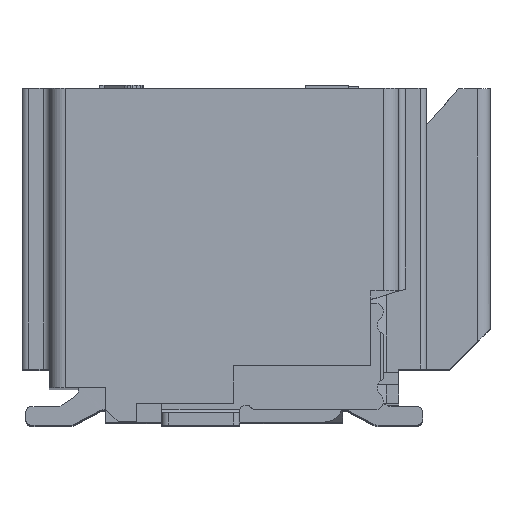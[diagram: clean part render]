
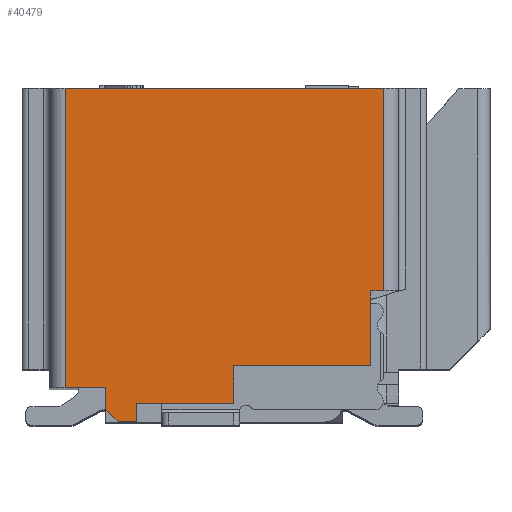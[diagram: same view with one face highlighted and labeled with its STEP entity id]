
A CAD part, top view. The second image highlights one B-rep face of the part: STEP entity #40479.
In plain terms, the highlighted planar face has unit normal (0, 0, 1).
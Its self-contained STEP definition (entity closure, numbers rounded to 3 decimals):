
#526 = VERTEX_POINT ( 'NONE', #62384 ) ;
#924 = DIRECTION ( 'NONE',  ( 0., -1., 0. ) ) ;
#1217 = ORIENTED_EDGE ( 'NONE', *, *, #10468, .T. ) ;
#2648 = DIRECTION ( 'NONE',  ( -1., 0., 0. ) ) ;
#3320 = LINE ( 'NONE', #54147, #22122 ) ;
#3886 = ORIENTED_EDGE ( 'NONE', *, *, #6984, .T. ) ;
#4043 = CARTESIAN_POINT ( 'NONE',  ( -1.9, 0.55, 8.65 ) ) ;
#4530 = LINE ( 'NONE', #16057, #59371 ) ;
#6232 = CARTESIAN_POINT ( 'NONE',  ( -1.9, 0.2, 8.65 ) ) ;
#6807 = VECTOR ( 'NONE', #8289, 1000. ) ;
#6984 = EDGE_CURVE ( 'NONE', #66555, #44958, #63815, .T. ) ;
#7229 = EDGE_CURVE ( 'NONE', #65160, #19312, #26721, .T. ) ;
#7872 = VECTOR ( 'NONE', #49823, 1000. ) ;
#8289 = DIRECTION ( 'NONE',  ( 1., 0., 0. ) ) ;
#10447 = DIRECTION ( 'NONE',  ( 0., -1., 0. ) ) ;
#10468 = EDGE_CURVE ( 'NONE', #19312, #66555, #49802, .T. ) ;
#10511 = VECTOR ( 'NONE', #2648, 1000. ) ;
#12300 = AXIS2_PLACEMENT_3D ( 'NONE', #37750, #32002, #43175 ) ;
#12562 = EDGE_CURVE ( 'NONE', #17152, #526, #62836, .T. ) ;
#13003 = VECTOR ( 'NONE', #924, 1000. ) ;
#13123 = ORIENTED_EDGE ( 'NONE', *, *, #22310, .T. ) ;
#13945 = LINE ( 'NONE', #29495, #34412 ) ;
#14085 = LINE ( 'NONE', #50316, #10511 ) ;
#15199 = CARTESIAN_POINT ( 'NONE',  ( -1.9, 0.55, 8.65 ) ) ;
#16057 = CARTESIAN_POINT ( 'NONE',  ( 0.15, 0.3, 8.65 ) ) ;
#17152 = VERTEX_POINT ( 'NONE', #61654 ) ;
#17981 = CARTESIAN_POINT ( 'NONE',  ( -1.4, 0.3, 8.65 ) ) ;
#18466 = LINE ( 'NONE', #54700, #6807 ) ;
#18583 = VERTEX_POINT ( 'NONE', #20361 ) ;
#19109 = ORIENTED_EDGE ( 'NONE', *, *, #62507, .T. ) ;
#19312 = VERTEX_POINT ( 'NONE', #34411 ) ;
#20361 = CARTESIAN_POINT ( 'NONE',  ( 0.15, 0.3, 8.65 ) ) ;
#20718 = EDGE_CURVE ( 'NONE', #46772, #44958, #18466, .T. ) ;
#21656 = CARTESIAN_POINT ( 'NONE',  ( 2.35, 0.9, 8.65 ) ) ;
#22122 = VECTOR ( 'NONE', #22640, 1000. ) ;
#22175 = VERTEX_POINT ( 'NONE', #23189 ) ;
#22310 = EDGE_CURVE ( 'NONE', #18583, #32160, #4530, .T. ) ;
#22640 = DIRECTION ( 'NONE',  ( 0., -1., 0. ) ) ;
#23050 = DIRECTION ( 'NONE',  ( 1., 0., 0. ) ) ;
#23189 = CARTESIAN_POINT ( 'NONE',  ( -1.4, 0., 8.65 ) ) ;
#24371 = DIRECTION ( 'NONE',  ( 1., 0., 0. ) ) ;
#26142 = LINE ( 'NONE', #41714, #52252 ) ;
#26662 = EDGE_CURVE ( 'NONE', #59527, #22175, #3320, .T. ) ;
#26721 = LINE ( 'NONE', #21656, #33869 ) ;
#27466 = VECTOR ( 'NONE', #10447, 1000. ) ;
#28435 = VECTOR ( 'NONE', #23050, 1000. ) ;
#28569 = CARTESIAN_POINT ( 'NONE',  ( 2.55, 5.35, 8.65 ) ) ;
#29156 = DIRECTION ( 'NONE',  ( 1., 0., 0. ) ) ;
#29495 = CARTESIAN_POINT ( 'NONE',  ( 0.15, 0.9, 8.65 ) ) ;
#31458 = EDGE_CURVE ( 'NONE', #22175, #526, #14085, .T. ) ;
#32002 = DIRECTION ( 'NONE',  ( 0., 0., 1. ) ) ;
#32043 = CARTESIAN_POINT ( 'NONE',  ( 2.55, 2.1, 8.65 ) ) ;
#32160 = VERTEX_POINT ( 'NONE', #64139 ) ;
#33771 = ORIENTED_EDGE ( 'NONE', *, *, #53285, .T. ) ;
#33869 = VECTOR ( 'NONE', #47398, 1000. ) ;
#34411 = CARTESIAN_POINT ( 'NONE',  ( 2.35, 2.1, 8.65 ) ) ;
#34412 = VECTOR ( 'NONE', #29156, 1000. ) ;
#35548 = EDGE_CURVE ( 'NONE', #37489, #17152, #62603, .T. ) ;
#36028 = CARTESIAN_POINT ( 'NONE',  ( 2.35, 0.9, 8.65 ) ) ;
#36166 = CARTESIAN_POINT ( 'NONE',  ( -2.55, 5.35, 8.65 ) ) ;
#36298 = CARTESIAN_POINT ( 'NONE',  ( -2.55, 5.35, 8.65 ) ) ;
#37489 = VERTEX_POINT ( 'NONE', #4043 ) ;
#37750 = CARTESIAN_POINT ( 'NONE',  ( 0., 2.675, 8.65 ) ) ;
#37778 = VECTOR ( 'NONE', #63824, 1000. ) ;
#38626 = CARTESIAN_POINT ( 'NONE',  ( -2.55, 0.55, 8.65 ) ) ;
#39879 = ORIENTED_EDGE ( 'NONE', *, *, #62447, .T. ) ;
#40045 = EDGE_CURVE ( 'NONE', #46772, #44038, #41255, .T. ) ;
#40479 = ADVANCED_FACE ( 'NONE', ( #42836 ), #53690, .T. ) ;
#41255 = LINE ( 'NONE', #36166, #27466 ) ;
#41276 = ORIENTED_EDGE ( 'NONE', *, *, #7229, .T. ) ;
#41714 = CARTESIAN_POINT ( 'NONE',  ( -1.4, 0.3, 8.65 ) ) ;
#42836 = FACE_OUTER_BOUND ( 'NONE', #52418, .T. ) ;
#43175 = DIRECTION ( 'NONE',  ( 1., 0., 0. ) ) ;
#44038 = VERTEX_POINT ( 'NONE', #55994 ) ;
#44958 = VERTEX_POINT ( 'NONE', #28569 ) ;
#46772 = VERTEX_POINT ( 'NONE', #36298 ) ;
#47398 = DIRECTION ( 'NONE',  ( 0., 1., 0. ) ) ;
#49799 = ORIENTED_EDGE ( 'NONE', *, *, #26662, .F. ) ;
#49802 = LINE ( 'NONE', #55212, #58227 ) ;
#49823 = DIRECTION ( 'NONE',  ( 0., 1., 0. ) ) ;
#50316 = CARTESIAN_POINT ( 'NONE',  ( -1.4, 0., 8.65 ) ) ;
#51780 = ORIENTED_EDGE ( 'NONE', *, *, #20718, .F. ) ;
#52252 = VECTOR ( 'NONE', #62404, 1000. ) ;
#52276 = DIRECTION ( 'NONE',  ( 0., 1., 0. ) ) ;
#52418 = EDGE_LOOP ( 'NONE', ( #51780, #56026, #19109, #53861, #60886, #57026, #49799, #39879, #13123, #33771, #41276, #1217, #3886 ) ) ;
#53285 = EDGE_CURVE ( 'NONE', #32160, #65160, #13945, .T. ) ;
#53690 = PLANE ( 'NONE',  #12300 ) ;
#53861 = ORIENTED_EDGE ( 'NONE', *, *, #35548, .T. ) ;
#54147 = CARTESIAN_POINT ( 'NONE',  ( -1.4, 0.3, 8.65 ) ) ;
#54700 = CARTESIAN_POINT ( 'NONE',  ( -2.55, 5.35, 8.65 ) ) ;
#55212 = CARTESIAN_POINT ( 'NONE',  ( 2.35, 2.1, 8.65 ) ) ;
#55994 = CARTESIAN_POINT ( 'NONE',  ( -2.55, 0.55, 8.65 ) ) ;
#56026 = ORIENTED_EDGE ( 'NONE', *, *, #40045, .T. ) ;
#57026 = ORIENTED_EDGE ( 'NONE', *, *, #31458, .F. ) ;
#58227 = VECTOR ( 'NONE', #24371, 1000. ) ;
#58385 = CARTESIAN_POINT ( 'NONE',  ( 2.55, 2.1, 8.65 ) ) ;
#59371 = VECTOR ( 'NONE', #52276, 1000. ) ;
#59527 = VERTEX_POINT ( 'NONE', #17981 ) ;
#60886 = ORIENTED_EDGE ( 'NONE', *, *, #12562, .T. ) ;
#61654 = CARTESIAN_POINT ( 'NONE',  ( -1.9, 0.2, 8.65 ) ) ;
#62384 = CARTESIAN_POINT ( 'NONE',  ( -1.7, 0., 8.65 ) ) ;
#62404 = DIRECTION ( 'NONE',  ( 1., 0., 0. ) ) ;
#62447 = EDGE_CURVE ( 'NONE', #59527, #18583, #26142, .T. ) ;
#62507 = EDGE_CURVE ( 'NONE', #44038, #37489, #65070, .T. ) ;
#62603 = LINE ( 'NONE', #15199, #13003 ) ;
#62836 = LINE ( 'NONE', #6232, #37778 ) ;
#63815 = LINE ( 'NONE', #58385, #7872 ) ;
#63824 = DIRECTION ( 'NONE',  ( 0.707, -0.707, 0. ) ) ;
#64139 = CARTESIAN_POINT ( 'NONE',  ( 0.15, 0.9, 8.65 ) ) ;
#65070 = LINE ( 'NONE', #38626, #28435 ) ;
#65160 = VERTEX_POINT ( 'NONE', #36028 ) ;
#66555 = VERTEX_POINT ( 'NONE', #32043 ) ;
